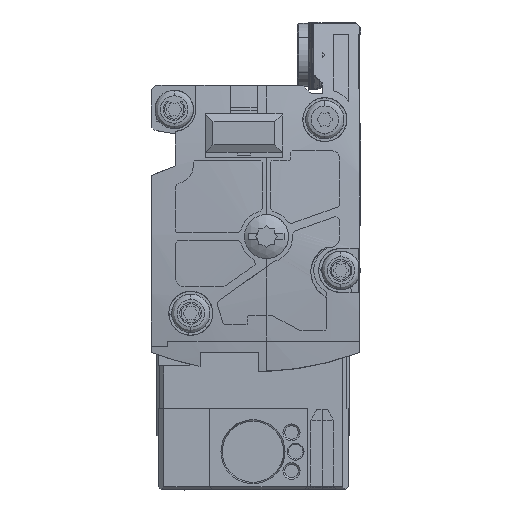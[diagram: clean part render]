
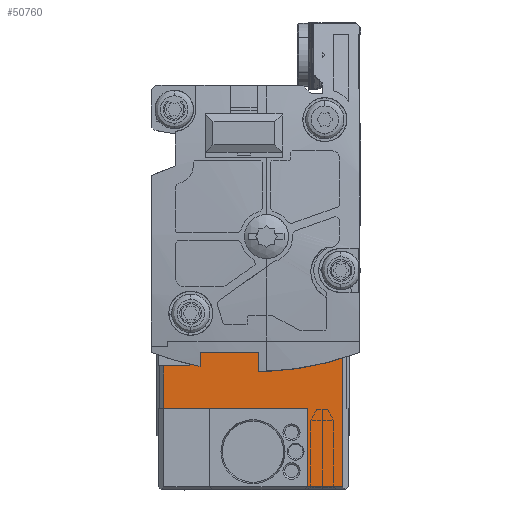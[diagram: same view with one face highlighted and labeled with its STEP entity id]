
A CAD part, left-side view. The second image highlights one B-rep face of the part: STEP entity #50760.
In plain terms, the highlighted planar face has unit normal (-1, 0, 0) as drawn and (1, 0, 0) by its records, which use the part's own axes.
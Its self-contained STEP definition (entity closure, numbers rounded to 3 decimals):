
#40110=CARTESIAN_POINT('',(9.407,81.34,1.));
#40120=VERTEX_POINT('',#40110);
#40150=CARTESIAN_POINT('',(9.407,0.,1.));
#40160=DIRECTION('',(0.,1.,0.));
#40170=VECTOR('',#40160,1.);
#40180=LINE('',#40150,#40170);
#40190=CARTESIAN_POINT('',(9.407,87.757,1.));
#40200=VERTEX_POINT('',#40190);
#40210=EDGE_CURVE('',#40120,#40200,#40180,.T.);
#48540=CARTESIAN_POINT('',(9.408,87.757,25.948));
#48550=VERTEX_POINT('',#48540);
#48750=CARTESIAN_POINT('',(9.407,87.757,0.));
#48760=DIRECTION('',(0.,0.,-1.));
#48770=VECTOR('',#48760,1.);
#48780=LINE('',#48750,#48770);
#48790=EDGE_CURVE('',#48550,#40200,#48780,.T.);
#48840=CARTESIAN_POINT('',(9.407,80.698,-0.42));
#48850=DIRECTION('',(1.,0.,0.));
#48860=DIRECTION('',(0.,-1.,0.));
#48870=AXIS2_PLACEMENT_3D('',#48840,#48850,#48860);
#48880=PLANE('',#48870);
#48890=ORIENTED_EDGE('',*,*,#40210,.T.);
#48900=CARTESIAN_POINT('',(9.407,81.34,0.));
#48910=DIRECTION('',(0.,0.,1.));
#48920=VECTOR('',#48910,1.);
#48930=LINE('',#48900,#48920);
#48940=CARTESIAN_POINT('',(9.407,81.34,15.2));
#48950=VERTEX_POINT('',#48940);
#48960=EDGE_CURVE('',#40120,#48950,#48930,.T.);
#48970=ORIENTED_EDGE('',*,*,#48960,.F.);
#48980=CARTESIAN_POINT('',(9.407,0.,15.2));
#48990=DIRECTION('',(0.,1.,0.));
#49000=VECTOR('',#48990,1.);
#49010=LINE('',#48980,#49000);
#49020=CARTESIAN_POINT('',(9.408,55.257,15.2));
#49030=VERTEX_POINT('',#49020);
#49040=EDGE_CURVE('',#49030,#48950,#49010,.T.);
#49050=ORIENTED_EDGE('',*,*,#49040,.T.);
#49060=CARTESIAN_POINT('',(9.407,55.256,0.));
#49070=DIRECTION('',(0.,0.,1.));
#49080=VECTOR('',#49070,1.);
#49090=LINE('',#49060,#49080);
#49100=CARTESIAN_POINT('',(9.408,55.257,23.002));
#49110=VERTEX_POINT('',#49100);
#49120=EDGE_CURVE('',#49030,#49110,#49090,.T.);
#49130=ORIENTED_EDGE('',*,*,#49120,.F.);
#49140=CARTESIAN_POINT('',(9.407,0.,23.002));
#49150=DIRECTION('',(0.,1.,0.));
#49160=VECTOR('',#49150,1.);
#49170=LINE('',#49140,#49160);
#49180=CARTESIAN_POINT('',(9.408,59.704,23.002));
#49190=VERTEX_POINT('',#49180);
#49200=EDGE_CURVE('',#49110,#49190,#49170,.T.);
#49210=ORIENTED_EDGE('',*,*,#49200,.F.);
#49220=CARTESIAN_POINT('',(9.407,59.704,23.502));
#49230=DIRECTION('',(1.,0.,0.));
#49240=DIRECTION('',(0.,-1.,0.));
#49250=AXIS2_PLACEMENT_3D('',#49220,#49230,#49240);
#49260=CIRCLE('',#49250,0.5);
#49270=CARTESIAN_POINT('',(9.408,60.204,23.502));
#49280=VERTEX_POINT('',#49270);
#49290=EDGE_CURVE('',#49190,#49280,#49260,.T.);
#49300=ORIENTED_EDGE('',*,*,#49290,.F.);
#49310=CARTESIAN_POINT('',(9.407,60.204,0.));
#49320=DIRECTION('',(0.,0.,-1.));
#49330=VECTOR('',#49320,1.);
#49340=LINE('',#49310,#49330);
#49350=CARTESIAN_POINT('',(9.408,60.204,23.996));
#49360=VERTEX_POINT('',#49350);
#49370=EDGE_CURVE('',#49360,#49280,#49340,.T.);
#49380=ORIENTED_EDGE('',*,*,#49370,.T.);
#49390=CARTESIAN_POINT('',(9.407,59.704,23.996
));
#49400=DIRECTION('',(-1.,0.,0.));
#49410=DIRECTION('',(0.,-1.,0.));
#49420=AXIS2_PLACEMENT_3D('',#49390,#49400,#49410);
#49430=CIRCLE('',#49420,0.5);
#49440=CARTESIAN_POINT('',(9.408,60.025,24.379));
#49450=VERTEX_POINT('',#49440);
#49460=EDGE_CURVE('',#49450,#49360,#49430,.T.);
#49470=ORIENTED_EDGE('',*,*,#49460,.T.);
#49480=CARTESIAN_POINT('',(9.407,0.,74.746));
#49490=DIRECTION('',(0.,0.766,-0.643));
#49500=VECTOR('',#49490,1.);
#49510=LINE('',#49480,#49500);
#49520=CARTESIAN_POINT('',(9.408,58.769,25.433));
#49530=VERTEX_POINT('',#49520);
#49540=EDGE_CURVE('',#49530,#49450,#49510,.T.);
#49550=ORIENTED_EDGE('',*,*,#49540,.T.);
#49560=CARTESIAN_POINT('',(9.408,58.679,25.625));
#49570=CARTESIAN_POINT('',(9.408,58.68,25.598));
#49580=CARTESIAN_POINT('',(9.408,58.683,25.572));
#49590=CARTESIAN_POINT('',(9.408,58.689,25.546));
#49600=CARTESIAN_POINT('',(9.408,58.706,25.506));
#49610=CARTESIAN_POINT('',(9.408,58.731,25.471));
#49620=CARTESIAN_POINT('',(9.408,58.743,25.457));
#49630=CARTESIAN_POINT('',(9.408,58.755,25.445));
#49640=CARTESIAN_POINT('',(9.408,58.769,25.433));
#49650=B_SPLINE_CURVE_WITH_KNOTS('',5,(#49560,#49570,#49580,#49590,
#49600,#49610,#49620,#49630,#49640),.UNSPECIFIED.,.F.,.F.,(6,3,6),(0.,
0.599,1.),.UNSPECIFIED.);
#49660=CARTESIAN_POINT('',(9.408,58.679,25.625));
#49670=VERTEX_POINT('',#49660);
#49680=EDGE_CURVE('',#49670,#49530,#49650,.T.);
#49690=ORIENTED_EDGE('',*,*,#49680,.T.);
#49700=CARTESIAN_POINT('',(9.407,58.679,0.));
#49710=DIRECTION('',(0.,0.,-1.));
#49720=VECTOR('',#49710,1.);
#49730=LINE('',#49700,#49720);
#49740=CARTESIAN_POINT('',(9.408,58.679,25.948));
#49750=VERTEX_POINT('',#49740);
#49760=EDGE_CURVE('',#49750,#49670,#49730,.T.);
#49770=ORIENTED_EDGE('',*,*,#49760,.T.);
#49780=CARTESIAN_POINT('',(9.407,0.,25.948));
#49790=DIRECTION('',(0.,1.,0.));
#49800=VECTOR('',#49790,1.);
#49810=LINE('',#49780,#49800);
#49820=CARTESIAN_POINT('',(9.408,75.638,25.948));
#49830=VERTEX_POINT('',#49820);
#49840=EDGE_CURVE('',#49750,#49830,#49810,.T.);
#49850=ORIENTED_EDGE('',*,*,#49840,.F.);
#49860=CARTESIAN_POINT('',(9.407,75.638,0.));
#49870=DIRECTION('',(0.,0.,1.));
#49880=VECTOR('',#49870,1.);
#49890=LINE('',#49860,#49880);
#49900=CARTESIAN_POINT('',(9.408,75.638,25.625));
#49910=VERTEX_POINT('',#49900);
#49920=EDGE_CURVE('',#49910,#49830,#49890,.T.);
#49930=ORIENTED_EDGE('',*,*,#49920,.T.);
#49940=CARTESIAN_POINT('',(9.408,75.549,25.433));
#49950=CARTESIAN_POINT('',(9.408,75.569,25.45));
#49960=CARTESIAN_POINT('',(9.408,75.587,25.469));
#49970=CARTESIAN_POINT('',(9.408,75.603,25.492));
#49980=CARTESIAN_POINT('',(9.408,75.623,25.53));
#49990=CARTESIAN_POINT('',(9.408,75.634,25.572));
#50000=CARTESIAN_POINT('',(9.408,75.637,25.589));
#50010=CARTESIAN_POINT('',(9.408,75.638,25.607));
#50020=CARTESIAN_POINT('',(9.408,75.638,25.625));
#50030=B_SPLINE_CURVE_WITH_KNOTS('',5,(#49940,#49950,#49960,#49970,
#49980,#49990,#50000,#50010,#50020),.UNSPECIFIED.,.F.,.F.,(6,3,6),(0.,
0.599,1.),.UNSPECIFIED.);
#50040=CARTESIAN_POINT('',(9.408,75.549,25.433));
#50050=VERTEX_POINT('',#50040);
#50060=EDGE_CURVE('',#50050,#49910,#50030,.T.);
#50070=ORIENTED_EDGE('',*,*,#50060,.T.);
#50080=CARTESIAN_POINT('',(9.407,0.,-37.96));
#50090=DIRECTION('',(0.,0.766,0.643));
#50100=VECTOR('',#50090,1.);
#50110=LINE('',#50080,#50100);
#50120=CARTESIAN_POINT('',(9.408,74.293,24.379));
#50130=VERTEX_POINT('',#50120);
#50140=EDGE_CURVE('',#50130,#50050,#50110,.T.);
#50150=ORIENTED_EDGE('',*,*,#50140,.T.);
#50160=CARTESIAN_POINT('',(9.407,74.614,23.996));
#50170=DIRECTION('',(-1.,0.,0.));
#50180=DIRECTION('',(0.,-1.,0.));
#50190=AXIS2_PLACEMENT_3D('',#50160,#50170,#50180);
#50200=CIRCLE('',#50190,0.5);
#50210=CARTESIAN_POINT('',(9.408,74.114,23.996));
#50220=VERTEX_POINT('',#50210);
#50230=EDGE_CURVE('',#50220,#50130,#50200,.T.);
#50240=ORIENTED_EDGE('',*,*,#50230,.T.);
#50250=CARTESIAN_POINT('',(9.407,74.114,0.));
#50260=DIRECTION('',(0.,0.,1.));
#50270=VECTOR('',#50260,1.);
#50280=LINE('',#50250,#50270);
#50290=CARTESIAN_POINT('',(9.408,74.114,23.502));
#50300=VERTEX_POINT('',#50290);
#50310=EDGE_CURVE('',#50300,#50220,#50280,.T.);
#50320=ORIENTED_EDGE('',*,*,#50310,.T.);
#50330=CARTESIAN_POINT('',(9.407,74.614,23.502));
#50340=DIRECTION('',(1.,0.,0.));
#50350=DIRECTION('',(0.,-1.,0.));
#50360=AXIS2_PLACEMENT_3D('',#50330,#50340,#50350);
#50370=CIRCLE('',#50360,0.5);
#50380=CARTESIAN_POINT('',(9.408,74.614,23.002));
#50390=VERTEX_POINT('',#50380);
#50400=EDGE_CURVE('',#50300,#50390,#50370,.T.);
#50410=ORIENTED_EDGE('',*,*,#50400,.F.);
#50420=CARTESIAN_POINT('',(9.407,0.,23.002));
#50430=DIRECTION('',(0.,1.,0.));
#50440=VECTOR('',#50430,1.);
#50450=LINE('',#50420,#50440);
#50460=CARTESIAN_POINT('',(9.408,77.811,23.002));
#50470=VERTEX_POINT('',#50460);
#50480=EDGE_CURVE('',#50390,#50470,#50450,.T.);
#50490=ORIENTED_EDGE('',*,*,#50480,.F.);
#50500=CARTESIAN_POINT('',(9.407,77.811,23.502));
#50510=DIRECTION('',(1.,0.,0.));
#50520=DIRECTION('',(0.,1.,0.));
#50530=AXIS2_PLACEMENT_3D('',#50500,#50510,#50520);
#50540=CIRCLE('',#50530,0.5);
#50550=CARTESIAN_POINT('',(9.408,78.311,23.502));
#50560=VERTEX_POINT('',#50550);
#50570=EDGE_CURVE('',#50470,#50560,#50540,.T.);
#50580=ORIENTED_EDGE('',*,*,#50570,.F.);
#50590=CARTESIAN_POINT('',(9.407,78.311,0.));
#50600=DIRECTION('',(0.,0.,1.));
#50610=VECTOR('',#50600,1.);
#50620=LINE('',#50590,#50610);
#50630=CARTESIAN_POINT('',(9.408,78.311,25.948));
#50640=VERTEX_POINT('',#50630);
#50650=EDGE_CURVE('',#50560,#50640,#50620,.T.);
#50660=ORIENTED_EDGE('',*,*,#50650,.F.);
#50670=CARTESIAN_POINT('',(9.407,0.,25.948));
#50680=DIRECTION('',(0.,1.,0.));
#50690=VECTOR('',#50680,1.);
#50700=LINE('',#50670,#50690);
#50710=EDGE_CURVE('',#50640,#48550,#50700,.T.);
#50720=ORIENTED_EDGE('',*,*,#50710,.F.);
#50730=ORIENTED_EDGE('',*,*,#48790,.F.);
#50740=EDGE_LOOP('',(#50730,#50720,#50660,#50580,#50490,#50410,#50320,
#50240,#50150,#50070,#49930,#49850,#49770,#49690,#49550,#49470,#49380,
#49300,#49210,#49130,#49050,#48970,#48890));
#50750=FACE_OUTER_BOUND('',#50740,.T.);
#50760=ADVANCED_FACE('',(#50750),#48880,.T.);
